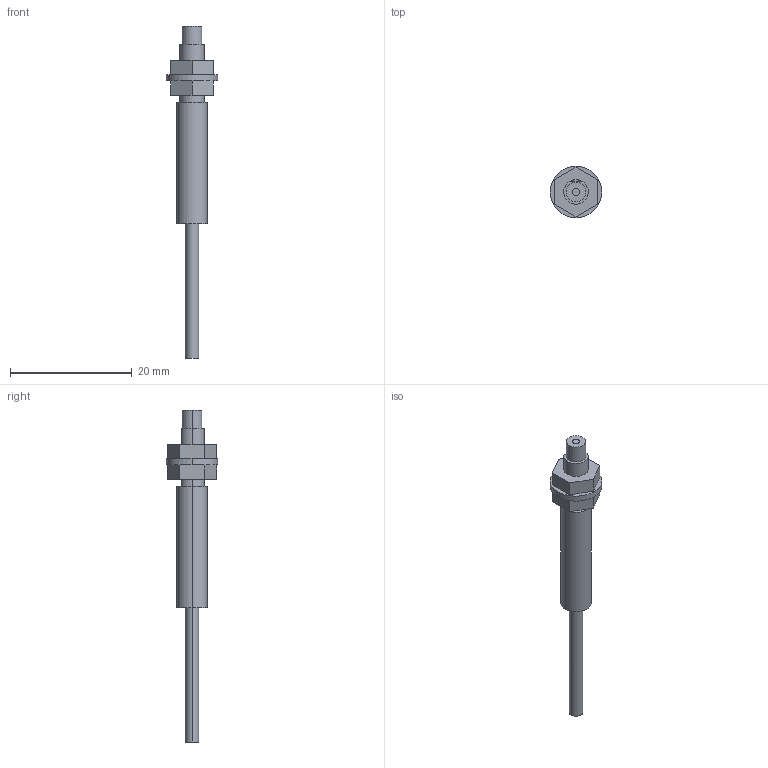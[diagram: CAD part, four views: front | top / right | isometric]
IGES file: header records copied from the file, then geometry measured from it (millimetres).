
Start section: SolidWorks IGES FILE using analytic representation for surfaces
Global section: file name: \\intra-srv04\開発データ\CAD_Data\CAD委員会\3D電子ｶﾀﾛｸﾞ\製品カタログ（新）\0_IGES\FT-P80.IGS,41HSolidWorks 2004; native system: by SolidWorks Corporation; preprocessor: Version 5.3; author: mf1158; date: 050908.131400; units: millimetre
Bounding box: 8.5 x 8.5 x 54.5 mm (x, y, z)
Volume: 803.6 mm3; surface area: 1078.4 mm2
Topology: 4 solids, 4 shells, 44 faces, 96 edges, 64 vertices
Faces by surface type: plane 25, revolution 19
